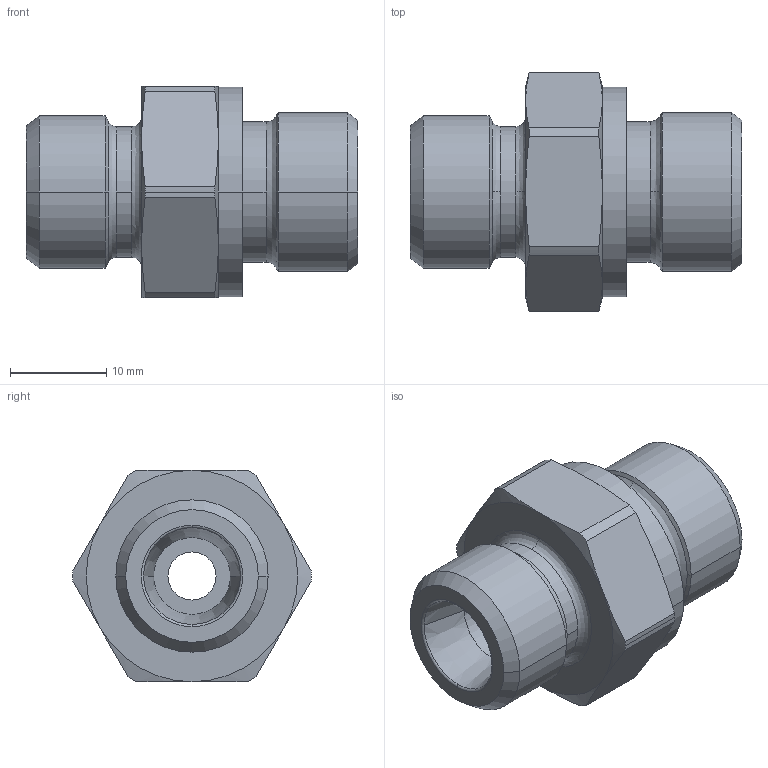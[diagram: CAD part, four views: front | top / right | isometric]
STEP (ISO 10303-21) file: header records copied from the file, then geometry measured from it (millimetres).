
FILE_DESCRIPTION((''),'2;1');
FILE_NAME('100541.stp','2007-10-30T14:34:11',(''),(''),'AutoCAD STEP 2000i','AutoCAD 2000i',', , ');
FILE_SCHEMA(('CONFIG_CONTROL_DESIGN'));
Length unit declared in the file: millimetre
Products named in the file (2): 100541.0; CHIAVE SMUSSATA#0
Assembly tree (1 placements, depth 2):
  100541.0
    CHIAVE SMUSSATA#0
Bounding box: 34.5 x 24.8 x 22 mm (x, y, z)
Volume: 7664.8 mm3; surface area: 3490.7 mm2
Topology: 1 solids, 1 shells, 75 faces, 185 edges, 117 vertices
Faces by surface type: cylinder 24, cone 24, plane 13, bspline 12, torus 2
Entity records: 2835 total; most frequent: CARTESIAN_POINT 955, DIRECTION 410, ORIENTED_EDGE 370, EDGE_CURVE 185, AXIS2_PLACEMENT_3D 184, CIRCLE 119, VERTEX_POINT 117, EDGE_LOOP 82
